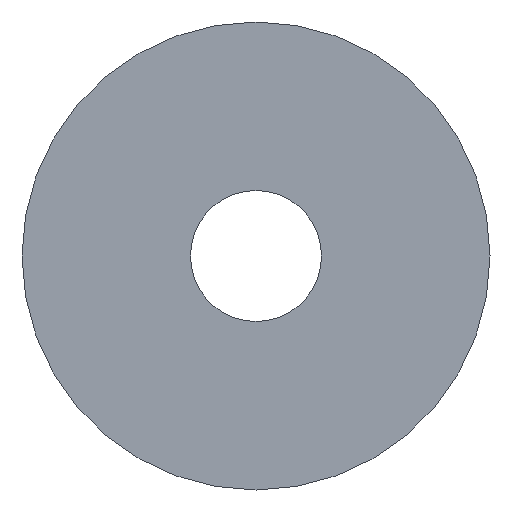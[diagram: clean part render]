
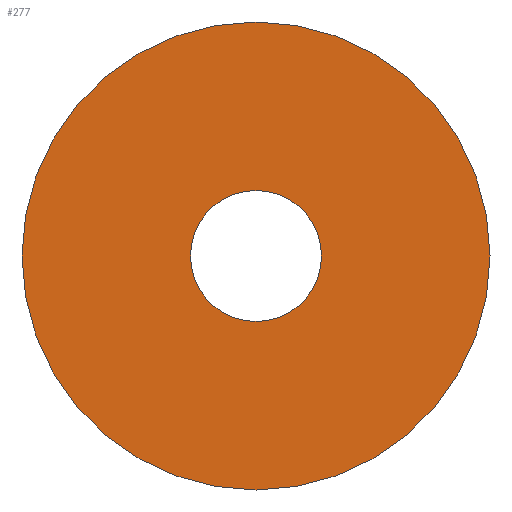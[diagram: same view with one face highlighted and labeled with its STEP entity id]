
A CAD part, front view. The second image highlights one B-rep face of the part: STEP entity #277.
In plain terms, the highlighted planar face has unit normal (0, -1, 0).
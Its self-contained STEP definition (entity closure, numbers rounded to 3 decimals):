
#13 = CARTESIAN_POINT ( 'NONE',  ( 0., -2.5, 6.25 ) ) ;
#18 = AXIS2_PLACEMENT_3D ( 'NONE', #423, #71, #81 ) ;
#22 = CARTESIAN_POINT ( 'NONE',  ( 0., -2.5, -6.25 ) ) ;
#25 = DIRECTION ( 'NONE',  ( 0., 0., 1. ) ) ;
#35 = ORIENTED_EDGE ( 'NONE', *, *, #164, .F. ) ;
#48 = CARTESIAN_POINT ( 'NONE',  ( 1.75, -2.5, 0. ) ) ;
#59 = CIRCLE ( 'NONE', #226, 1.75 ) ;
#71 = DIRECTION ( 'NONE',  ( 0., 1., 0. ) ) ;
#78 = CARTESIAN_POINT ( 'NONE',  ( 0., -2.5, 0. ) ) ;
#81 = DIRECTION ( 'NONE',  ( 0., 0., 1. ) ) ;
#98 = EDGE_LOOP ( 'NONE', ( #35, #417 ) ) ;
#114 = DIRECTION ( 'NONE',  ( 0., 1., 0. ) ) ;
#126 = ORIENTED_EDGE ( 'NONE', *, *, #216, .T. ) ;
#127 = FACE_OUTER_BOUND ( 'NONE', #98, .T. ) ;
#129 = EDGE_CURVE ( 'NONE', #138, #308, #158, .T. ) ;
#138 = VERTEX_POINT ( 'NONE', #13 ) ;
#141 = CARTESIAN_POINT ( 'NONE',  ( 0., -2.5, 0. ) ) ;
#158 = CIRCLE ( 'NONE', #411, 6.25 ) ;
#162 = FACE_BOUND ( 'NONE', #335, .T. ) ;
#164 = EDGE_CURVE ( 'NONE', #308, #138, #176, .T. ) ;
#176 = CIRCLE ( 'NONE', #412, 6.25 ) ;
#179 = DIRECTION ( 'NONE',  ( 0., 0., 1. ) ) ;
#194 = CARTESIAN_POINT ( 'NONE',  ( 0., -2.5, 0. ) ) ;
#216 = EDGE_CURVE ( 'NONE', #418, #296, #429, .T. ) ;
#226 = AXIS2_PLACEMENT_3D ( 'NONE', #141, #271, #179 ) ;
#229 = DIRECTION ( 'NONE',  ( 0., 0., 1. ) ) ;
#232 = CARTESIAN_POINT ( 'NONE',  ( 0., -2.5, -1.75 ) ) ;
#240 = ORIENTED_EDGE ( 'NONE', *, *, #386, .T. ) ;
#245 = CARTESIAN_POINT ( 'NONE',  ( 0., -2.5, 1.75 ) ) ;
#271 = DIRECTION ( 'NONE',  ( 0., 1., 0. ) ) ;
#277 = ADVANCED_FACE ( 'NONE', ( #127, #162 ), #326, .F. ) ;
#286 = DIRECTION ( 'NONE',  ( 0., 1., 0. ) ) ;
#295 = DIRECTION ( 'NONE',  ( 0., 1., 0. ) ) ;
#296 = VERTEX_POINT ( 'NONE', #232 ) ;
#308 = VERTEX_POINT ( 'NONE', #22 ) ;
#326 = PLANE ( 'NONE',  #370 ) ;
#335 = EDGE_LOOP ( 'NONE', ( #126, #240 ) ) ;
#361 = DIRECTION ( 'NONE',  ( 0., 0., 1. ) ) ;
#370 = AXIS2_PLACEMENT_3D ( 'NONE', #48, #295, #25 ) ;
#386 = EDGE_CURVE ( 'NONE', #296, #418, #59, .T. ) ;
#411 = AXIS2_PLACEMENT_3D ( 'NONE', #194, #114, #229 ) ;
#412 = AXIS2_PLACEMENT_3D ( 'NONE', #78, #286, #361 ) ;
#417 = ORIENTED_EDGE ( 'NONE', *, *, #129, .F. ) ;
#418 = VERTEX_POINT ( 'NONE', #245 ) ;
#423 = CARTESIAN_POINT ( 'NONE',  ( 0., -2.5, 0. ) ) ;
#429 = CIRCLE ( 'NONE', #18, 1.75 ) ;
